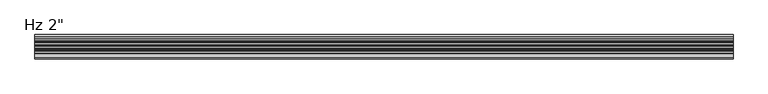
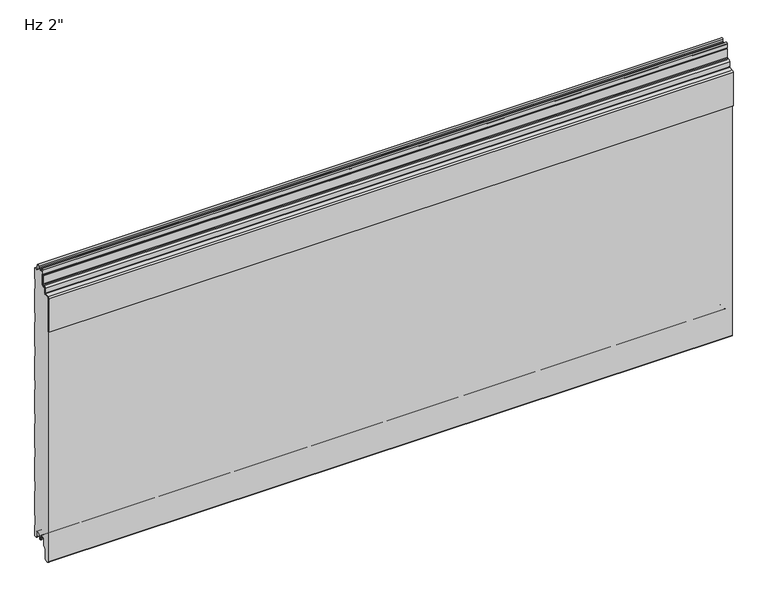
"""IFC4 building model written with IfcOpenShell, lengths in millimetres: plate geometry."""

from ifc_helpers import new_model, si_unit, frame, origin, place, context, project, spatial, polyline, circle_curve, source, transform, mapped, element, save
from ifc_brep_helpers import plane_surface, cylinder_surface, revolved_surface, advanced_brep


def plate_5e277305(model_context):
    return source(origin(), model_context, "Body", "AdvancedBrep", [
        advanced_brep(
        [(730.0, -29.7008679, 583.4464086), (730.0, -29.7008679, 602.1916086), (730.0, -31.2248679, 602.1916086), (730.0, -31.2248679, 583.4464086), (730.0, -32.7488679, 581.9224086), (730.0, -35.8476679, 581.9224086), (730.0, -39.3020679, 578.4680086), (730.0, -39.3020679, 567.2554512), (730.0, -39.9976552, 566.4963509), (730.0, -49.5416507, 565.3015233), (730.0, -52.324, 562.2651218), (730.0, -52.3360323, 486.6978086), (730.0, -50.8, 486.6978086), (730.0, -50.8, 562.2651218), (730.0, -49.4088254, 563.7833225), (730.0, -39.8648299, 564.9781501), (730.0, -37.7780679, 567.2554512), (730.0, -37.7780679, 578.4680086), (730.0, -35.8476679, 580.3984086), (730.0, -32.7488679, 580.3984086), (-730.0, -29.7008679, 583.4464086), (-730.0, -32.7488679, 580.3984086), (-730.0, -35.8476679, 580.3984086), (-730.0, -37.7780679, 578.4680086), (-730.0, -37.7780679, 567.2554512), (-730.0, -39.8648299, 564.9781501), (-730.0, -49.4088254, 563.7833225), (-730.0, -50.8, 562.2651218), (-730.0, -50.8, 486.6978086), (-730.0, -52.3360323, 486.6978086), (-730.0, -52.3360323, 562.2651218), (-730.0, -49.5416507, 565.3015233), (-730.0, -39.9976552, 566.4963509), (-730.0, -39.3020679, 567.2554512), (-730.0, -39.3020679, 578.4680086), (-730.0, -35.8476679, 581.9224086), (-730.0, -32.7488679, 581.9224086), (-730.0, -31.2248679, 583.4464086), (-730.0, -31.2248679, 602.1916086), (-730.0, -29.7008679, 602.1916086)],
        [
            (0, 1),
            (1, 2),
            (2, 3),
            (3, 4, circle_curve(frame((730.0, -32.7488679, 583.4464086), z_axis=(-1.0, 0.0, 0.0), x_axis=(0.0, 1.0, 0.0)), 1.524)),
            (4, 5),
            (5, 6, circle_curve(frame((730.0, -35.8476679, 578.4680086), z_axis=(1.0, 0.0, 0.0), x_axis=(0.0, 1.0, 0.0)), 3.4544)),
            (6, 7),
            (7, 8, circle_curve(frame((730.0, -40.0640679, 567.2554512), z_axis=(-1.0, 0.0, 0.0), x_axis=(0.0, 1.0, 0.0)), 0.762)),
            (8, 9),
            (9, 10, circle_curve(frame((730.0, -49.276, 562.2651218), z_axis=(1.0, 0.0, 0.0), x_axis=(0.0, 1.0, 0.0)), 3.048)),
            (10, 11),
            (11, 12),
            (12, 13),
            (13, 14, circle_curve(frame((730.0, -49.276, 562.2651218), z_axis=(-1.0, 0.0, 0.0), x_axis=(0.0, 1.0, 0.0)), 1.524)),
            (14, 15),
            (15, 16, circle_curve(frame((730.0, -40.0640679, 567.2554512), z_axis=(1.0, 0.0, 0.0), x_axis=(0.0, 1.0, 0.0)), 2.286)),
            (16, 17),
            (17, 18, circle_curve(frame((730.0, -35.8476679, 578.4680086), z_axis=(-1.0, 0.0, 0.0), x_axis=(0.0, 1.0, 0.0)), 1.9304)),
            (18, 19),
            (19, 0, circle_curve(frame((730.0, -32.7488679, 583.4464086), z_axis=(1.0, 0.0, 0.0), x_axis=(0.0, 1.0, 0.0)), 3.048)),
            (20, 21, circle_curve(frame((-730.0, -32.7488679, 583.4464086), z_axis=(-1.0, 0.0, 0.0), x_axis=(0.0, 1.0, 0.0)), 3.048)),
            (21, 22),
            (22, 23, circle_curve(frame((-730.0, -35.8476679, 578.4680086), z_axis=(1.0, 0.0, 0.0), x_axis=(0.0, 1.0, 0.0)), 1.9304)),
            (23, 24),
            (24, 25, circle_curve(frame((-730.0, -40.0640679, 567.2554512), z_axis=(-1.0, 0.0, 0.0), x_axis=(0.0, 1.0, 0.0)), 2.286)),
            (25, 26),
            (26, 27, circle_curve(frame((-730.0, -49.276, 562.2651218), z_axis=(1.0, 0.0, 0.0), x_axis=(0.0, 1.0, 0.0)), 1.524)),
            (27, 28),
            (28, 29),
            (29, 30),
            (30, 31, circle_curve(frame((-730.0, -49.276, 562.2651218), z_axis=(-1.0, 0.0, 0.0), x_axis=(0.0, 1.0, 0.0)), 3.048)),
            (31, 32),
            (32, 33, circle_curve(frame((-730.0, -40.0640679, 567.2554512), z_axis=(1.0, 0.0, 0.0), x_axis=(0.0, 1.0, 0.0)), 0.762)),
            (33, 34),
            (34, 35, circle_curve(frame((-730.0, -35.8476679, 578.4680086), z_axis=(-1.0, 0.0, 0.0), x_axis=(0.0, 1.0, 0.0)), 3.4544)),
            (35, 36),
            (36, 37, circle_curve(frame((-730.0, -32.7488679, 583.4464086), z_axis=(1.0, 0.0, 0.0), x_axis=(0.0, 1.0, 0.0)), 1.524)),
            (37, 38),
            (38, 39),
            (39, 20),
            (2, 38),
            (37, 3),
            (15, 25),
            (24, 16),
            (7, 33),
            (32, 8),
            (5, 35),
            (34, 6),
            (1, 39),
            (36, 4),
            (9, 31),
            (30, 10),
            (13, 27),
            (26, 14),
            (0, 20),
            (12, 28),
            (29, 11),
            (23, 17),
            (18, 22),
            (21, 19),
        ],
        [
            plane_surface(frame((730.0, -50.8, 602.1916086), z_axis=(1.0, 0.0, 0.0), x_axis=(0.0, 0.0, -1.0))),
            plane_surface(frame((-730.0, -50.8, 602.1916086), z_axis=(-1.0, 0.0, 0.0), x_axis=(0.0, 0.0, -1.0))),
            plane_surface(frame((730.0, -31.2248679, 583.4464086), z_axis=(0.0, -1.0, 0.0), x_axis=(-1.0, 0.0, 0.0))),
            cylinder_surface(frame((730.0, -40.0640679, 567.2554512), z_axis=(1.0, 0.0, 0.0), x_axis=(0.0, 1.0, 0.0)), 2.286),
            revolved_surface(polyline([(-730.0, -39.3020679, 567.2554512), (730.0, -39.3020679, 567.2554512)]), (730.0, -40.0640679, 567.2554512), (-1.0, 0.0, 0.0)),
            cylinder_surface(frame((730.0, -35.8476679, 578.4680086), z_axis=(1.0, 0.0, 0.0), x_axis=(0.0, 1.0, 0.0)), 3.4544),
            plane_surface(frame((730.0, -31.2248679, 602.1916086), z_axis=(0.0, 0.0, 1.0), x_axis=(-1.0, 0.0, 0.0))),
            revolved_surface(polyline([(-730.0, -31.2248679, 583.4464086), (730.0, -31.2248679, 583.4464086)]), (730.0, -32.7488679, 583.4464086), (-1.0, 0.0, 0.0)),
            cylinder_surface(frame((730.0, -49.276, 562.2651218), z_axis=(1.0, 0.0, 0.0), x_axis=(0.0, 1.0, 0.0)), 3.048),
            revolved_surface(polyline([(-730.0, -47.752, 562.2651218), (730.0, -47.752, 562.2651218)]), (730.0, -49.276, 562.2651218), (-1.0, 0.0, 0.0)),
            plane_surface(frame((730.0, -29.7008679, 602.1916086), z_axis=(0.0, 1.0, 0.0), x_axis=(-1.0, 0.0, 0.0))),
            plane_surface(frame((730.0, -39.8648299, 564.9781501), z_axis=(0.0, 0.12422187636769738, -0.9922544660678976), x_axis=(-1.0, 0.0, 0.0))),
            plane_surface(frame((730.0, -50.8, 562.2651218), z_axis=(0.0, 1.0, 0.0), x_axis=(-1.0, 0.0, 0.0))),
            plane_surface(frame((730.0, -49.5416507, 565.3015233), z_axis=(0.0, -0.12422187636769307, 0.9922544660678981), x_axis=(-1.0, 0.0, 0.0))),
            plane_surface(frame((730.0, -35.8476679, 581.9224086), z_axis=(0.0, 0.0, 1.0), x_axis=(-1.0, 0.0, 0.0))),
            plane_surface(frame((730.0, -52.3360323, 486.6978086), z_axis=(0.0, -1.0, 0.0), x_axis=(-1.0, 0.0, 0.0))),
            plane_surface(frame((730.0, -50.8, 486.6978086), z_axis=(0.0, 0.0, -1.0), x_axis=(-1.0, 0.0, 0.0))),
            plane_surface(frame((730.0, -37.7780679, 578.4680086), z_axis=(0.0, 1.0, 0.0), x_axis=(-1.0, 0.0, 0.0))),
            plane_surface(frame((730.0, -32.7488679, 580.3984086), z_axis=(0.0, 0.0, -1.0), x_axis=(-1.0, 0.0, 0.0))),
            plane_surface(frame((730.0, -39.3020679, 567.2554512), z_axis=(0.0, -1.0, 0.0), x_axis=(-1.0, 0.0, 0.0))),
            revolved_surface(polyline([(-730.0, -33.9172679, 578.4680086), (730.0, -33.9172679, 578.4680086)]), (730.0, -35.8476679, 578.4680086), (-1.0, 0.0, 0.0)),
            cylinder_surface(frame((730.0, -32.7488679, 583.4464086), z_axis=(1.0, 0.0, 0.0), x_axis=(0.0, 1.0, 0.0)), 3.048),
        ],
        [
            (0, [[1, 2, 3, 4, 5, 6, 7, 8, 9, 10, 11, 12, 13, 14, 15, 16, 17, 18, 19, 20]]),
            (1, [[21, 22, 23, 24, 25, 26, 27, 28, 29, 30, 31, 32, 33, 34, 35, 36, 37, 38, 39, 40]]),
            (2, [[41, -38, 42, -3]]),
            (3, [[43, -25, 44, -16]]),
            (4, [[45, -33, 46, -8]]),
            (5, [[47, -35, 48, -6]]),
            (6, [[49, -39, -41, -2]]),
            (7, [[-42, -37, 50, -4]]),
            (8, [[51, -31, 52, -10]]),
            (9, [[53, -27, 54, -14]]),
            (10, [[55, -40, -49, -1]]),
            (11, [[-54, -26, -43, -15]]),
            (12, [[56, -28, -53, -13]]),
            (13, [[-46, -32, -51, -9]]),
            (14, [[-50, -36, -47, -5]]),
            (15, [[-52, -30, 57, -11]]),
            (16, [[-57, -29, -56, -12]]),
            (17, [[-44, -24, 58, -17]]),
            (18, [[59, -22, 60, -19]]),
            (19, [[-48, -34, -45, -7]]),
            (20, [[-58, -23, -59, -18]]),
            (21, [[-60, -21, -55, -20]]),
        ],
    ),
        advanced_brep(
        [(-730.0, -22.470875, 1.0316999), (-730.0, -21.3014003, 2.2328239), (-730.0, -21.3014003, 5.9912173), (-730.0, -22.6998791, 5.9912173), (-730.0, -22.6998791, 8.6903283), (-730.0, -26.0498744, 12.0403236), (-730.0, -30.4498656, 12.0403236), (-730.0, -33.7998609, 8.6903283), (-730.0, -33.7998609, -3.1205608), (-730.0, -34.2977778, -4.3226385), (-730.0, -39.7998489, -9.8247096), (-730.0, -39.7998489, -31.9198392), (-730.0, -42.0184509, -34.5765709), (-730.0, -47.0002718, -35.0125699), (-730.0, -49.7945967, -32.4521176), (-730.0, -49.8, 561.115622), (-730.0, -48.0149259, 563.0669057), (-730.0, -39.5539491, 563.821161), (-730.0, -36.7906462, 566.9653654), (-730.0, -36.7906462, 577.0583308), (-730.0, -35.8392375, 578.0097394), (-730.0, -32.6955822, 578.0097394), (-730.0, -28.6961293, 582.0091924), (-730.0, -28.6961293, 603.1895515), (-730.0, -30.676977, 604.3334028), (-730.0, -30.3217167, 613.306811), (-730.0, -26.1211391, 613.3037148), (-730.0, -25.8767242, 609.2977997), (-730.0, -24.0819116, 607.5686884), (-730.0, -21.297365, 607.5686884), (-730.0, -21.297365, 608.5686884), (-730.0, -22.884865, 608.5686884), (-730.0, -21.8535534, 609.6), (-730.0, -18.6247968, 609.6), (-730.0, -17.5934852, 608.5686884), (-730.0, -19.0078731, 608.5686884), (-730.0, -19.0078731, 607.5686884), (-730.0, -16.6806905, 607.5686884), (-730.0, -14.9319872, 609.2513685), (-730.0, -14.7123265, 613.3921924), (-730.0, -10.4109885, 613.3931719), (-730.0, -10.0037808, 604.9016499), (-730.0, -6.008945, 601.0787013), (-730.0, -1.0063443, 601.0787013), (-730.0, -1.0063443, 576.5789439), (-730.0, -2.206575, 575.1933109), (-730.0, -2.206575, 555.8181446), (-730.0, -1.0063443, 554.4325117), (-730.0, -1.0063443, 500.3790963), (-730.0, -2.206575, 498.9934633), (-730.0, -2.206575, 479.618297), (-730.0, -1.0063443, 478.2326641), (-730.0, -1.0063443, 424.1792487), (-730.0, -2.206575, 422.7936157), (-730.0, -2.206575, 403.4184494), (-730.0, -1.0063443, 402.0328165), (-730.0, -1.0063443, 347.9794011), (-730.0, -2.206575, 346.5937681), (-730.0, -2.206575, 327.2186018), (-730.0, -1.0063443, 325.8329689), (-730.0, -1.0063443, 271.7795535), (-730.0, -2.206575, 270.3939205), (-730.0, -2.206575, 251.0187542), (-730.0, -1.0063443, 249.6331213), (-730.0, -1.0063443, 195.5797059), (-730.0, -2.206575, 194.1940729), (-730.0, -2.206575, 174.8189066), (-730.0, -1.0063443, 173.4332737), (-730.0, -1.0063443, 119.3798583), (-730.0, -2.206575, 117.9942253), (-730.0, -2.206575, 98.619059), (-730.0, -1.0063443, 97.2334261), (-730.0, -1.0063443, 43.1800107), (-730.0, -2.206575, 41.7943777), (-730.0, -2.206575, 22.4192114), (-730.0, -1.0063443, 21.0335785), (-730.0, -1.0063443, -3.4662506), (-730.0, -5.2378832, -3.4662506), (-730.0, -7.0078774, -1.6962564), (-730.0, -7.0078774, 8.7237222), (-730.0, -10.3078733, 12.023718), (-730.0, -14.7078645, 12.023718), (-730.0, -18.0078602, 8.7237223), (-730.0, -18.0078602, 6.0315125), (-730.0, -19.0078547, 6.0315125), (-730.0, -19.0078547, 2.0313089), (-730.0, -18.0078635, 1.0313117), (-730.0, -19.0391752, 0.0), (-730.0, -21.4391751, 0.0), (730.0, -22.470875, 1.0316999), (730.0, -21.4391751, 0.0), (730.0, -19.0391752, 0.0), (730.0, -18.0078635, 1.0313117), (730.0, -19.0078547, 2.0313089), (730.0, -19.0078547, 6.0315125), (730.0, -18.0078602, 6.0315125), (730.0, -18.0078602, 8.7237223), (730.0, -14.7078645, 12.023718), (730.0, -10.3078733, 12.023718), (730.0, -7.0078774, 8.7237222), (730.0, -7.0078774, -1.6962564), (730.0, -5.2378832, -3.4662506), (730.0, -1.0063443, -3.4662506), (730.0, -1.0063443, 21.0335785), (730.0, -2.206575, 22.4192114), (730.0, -2.206575, 41.7943777), (730.0, -1.0063443, 43.1800107), (730.0, -1.0063443, 97.2334261), (730.0, -2.206575, 98.619059), (730.0, -2.206575, 117.9942253), (730.0, -1.0063443, 119.3798583), (730.0, -1.0063443, 173.4332737), (730.0, -2.206575, 174.8189066), (730.0, -2.206575, 194.1940729), (730.0, -1.0063443, 195.5797059), (730.0, -1.0063443, 249.6331213), (730.0, -2.206575, 251.0187542), (730.0, -2.206575, 270.3939205), (730.0, -1.0063443, 271.7795535), (730.0, -1.0063443, 325.8329689), (730.0, -2.206575, 327.2186018), (730.0, -2.206575, 346.5937681), (730.0, -1.0063443, 347.9794011), (730.0, -1.0063443, 402.0328165), (730.0, -2.206575, 403.4184494), (730.0, -2.206575, 422.7936157), (730.0, -1.0063443, 424.1792487), (730.0, -1.0063443, 478.2326641), (730.0, -2.206575, 479.618297), (730.0, -2.206575, 498.9934633), (730.0, -1.0063443, 500.3790963), (730.0, -1.0063443, 554.4325117), (730.0, -2.206575, 555.8181446), (730.0, -2.206575, 575.1933109), (730.0, -1.0063443, 576.5789439), (730.0, -1.0063443, 601.0787013), (730.0, -6.008945, 601.0787013), (730.0, -10.0037808, 604.9016499), (730.0, -10.4109885, 613.3931719), (730.0, -14.7123265, 613.3921924), (730.0, -14.9319872, 609.2513685), (730.0, -16.6806905, 607.5686884), (730.0, -19.0078731, 607.5686884), (730.0, -19.0078731, 608.5686884), (730.0, -17.5934852, 608.5686884), (730.0, -18.6247968, 609.6), (730.0, -21.8535534, 609.6), (730.0, -22.884865, 608.5686884), (730.0, -21.297365, 608.5686884), (730.0, -21.297365, 607.5686884), (730.0, -24.0819116, 607.5686884), (730.0, -25.8767242, 609.2977997), (730.0, -26.1211391, 613.3037148), (730.0, -30.3217167, 613.306811), (730.0, -30.676977, 604.3334028), (730.0, -28.6961293, 603.1895515), (730.0, -28.6961293, 582.0091924), (730.0, -32.6955822, 578.0097394), (730.0, -35.8392375, 578.0097394), (730.0, -36.7906462, 577.0583308), (730.0, -36.7906462, 566.9653654), (730.0, -39.5539491, 563.821161), (730.0, -48.0149259, 563.0669057), (730.0, -49.8, 561.115622), (730.0, -49.8, -32.4521176), (730.0, -47.0002718, -35.0125699), (730.0, -42.0184509, -34.5765709), (730.0, -39.7998489, -31.9198392), (730.0, -39.7998489, -9.8247096), (730.0, -34.2977778, -4.3226385), (730.0, -33.7998609, -3.1205608), (730.0, -33.7998609, 8.6903283), (730.0, -30.4498656, 12.0403236), (730.0, -26.0498744, 12.0403236), (730.0, -22.6998791, 8.6903283), (730.0, -22.6998791, 5.9912173), (730.0, -21.3014003, 5.9912173), (730.0, -21.3014003, 2.2328239)],
        [
            (0, 1, circle_curve(frame((-730.0, -22.5013969, 2.2313092), z_axis=(1.0, 0.0, 0.0), x_axis=(0.0, 0.0, -1.0)), 1.1999976)),
            (1, 2),
            (2, 3),
            (3, 4),
            (4, 5, circle_curve(frame((-730.0, -26.0498744, 8.6903283), z_axis=(1.0, 0.0, 0.0), x_axis=(0.0, 0.0, -1.0)), 3.3499953)),
            (5, 6),
            (6, 7, circle_curve(frame((-730.0, -30.4498656, 8.6903283), z_axis=(1.0, 0.0, 0.0), x_axis=(0.0, 0.0, -1.0)), 3.3499953)),
            (7, 8),
            (8, 9, circle_curve(frame((-730.0, -35.4998555, -3.1205608), z_axis=(-1.0, 0.0, 0.0), x_axis=(0.0, 0.0, -1.0)), 1.6999946)),
            (9, 10),
            (10, 11),
            (11, 12, circle_curve(frame((-730.0, -42.4998415, -31.9198392), z_axis=(-1.0, 0.0, 0.0), x_axis=(0.0, 0.0, -1.0)), 2.6999926)),
            (12, 13),
            (13, 14, circle_curve(frame((-730.0, -47.2243575, -32.4521176), z_axis=(-1.0, 0.0, 0.0), x_axis=(0.0, 0.0, -1.0)), 2.5702393)),
            (14, 15),
            (15, 16, circle_curve(frame((-730.0, -47.8409784, 561.115622), z_axis=(-1.0, 0.0, 0.0), x_axis=(0.0, 0.0, -1.0)), 1.9590216)),
            (16, 17),
            (17, 18, circle_curve(frame((-730.0, -39.8180321, 566.8396267), z_axis=(1.0, 0.0, 0.0), x_axis=(0.0, 0.0, -1.0)), 3.0299959)),
            (18, 19),
            (19, 20, circle_curve(frame((-730.0, -35.8392375, 577.0583308), z_axis=(-1.0, 0.0, 0.0), x_axis=(0.0, 0.0, -1.0)), 0.9514087)),
            (20, 21),
            (21, 22, circle_curve(frame((-730.0, -32.6955822, 582.0091924), z_axis=(1.0, 0.0, 0.0), x_axis=(0.0, 0.0, -1.0)), 3.9994529)),
            (22, 23),
            (23, 24),
            (24, 25),
            (25, 26, circle_curve(frame((-730.0, -28.2214881, 613.2236622), z_axis=(-1.0, 0.0, 0.0), x_axis=(0.0, 0.0, -1.0)), 2.1018739)),
            (26, 27),
            (27, 28, circle_curve(frame((-730.0, -24.0383506, 609.4099653), z_axis=(1.0, 0.0, 0.0), x_axis=(0.0, 0.0, -1.0)), 1.8417922)),
            (28, 29),
            (29, 30),
            (30, 31),
            (31, 32),
            (32, 33),
            (33, 34),
            (34, 35),
            (35, 36),
            (36, 37),
            (37, 38, circle_curve(frame((-730.0, -16.6806905, 609.3186869), z_axis=(1.0, 0.0, 0.0), x_axis=(0.0, 0.0, -1.0)), 1.7499985)),
            (38, 39),
            (39, 40, circle_curve(frame((-730.0, -12.5616314, 613.2781032), z_axis=(-1.0, 0.0, 0.0), x_axis=(0.0, 0.0, -1.0)), 2.153719)),
            (40, 41),
            (41, 42, circle_curve(frame((-730.0, -5.9930781, 605.0939817), z_axis=(1.0, 0.0, 0.0), x_axis=(0.0, 0.0, -1.0)), 4.0153117)),
            (42, 43),
            (43, 44),
            (44, 45),
            (45, 46),
            (46, 47),
            (47, 48),
            (48, 49),
            (49, 50),
            (50, 51),
            (51, 52),
            (52, 53),
            (53, 54),
            (54, 55),
            (55, 56),
            (56, 57),
            (57, 58),
            (58, 59),
            (59, 60),
            (60, 61),
            (61, 62),
            (62, 63),
            (63, 64),
            (64, 65),
            (65, 66),
            (66, 67),
            (67, 68),
            (68, 69),
            (69, 70),
            (70, 71),
            (71, 72),
            (72, 73),
            (73, 74),
            (74, 75),
            (75, 76),
            (76, 77),
            (77, 78, circle_curve(frame((-730.0, -5.2378832, -1.6962564), z_axis=(-1.0, 0.0, 0.0), x_axis=(0.0, 0.0, -1.0)), 1.7699942)),
            (78, 79),
            (79, 80, circle_curve(frame((-730.0, -10.3078733, 8.7237222), z_axis=(1.0, 0.0, 0.0), x_axis=(0.0, 0.0, -1.0)), 3.2999959)),
            (80, 81),
            (81, 82, circle_curve(frame((-730.0, -14.7078645, 8.7237223), z_axis=(1.0, 0.0, 0.0), x_axis=(0.0, 0.0, -1.0)), 3.2999957)),
            (82, 83),
            (83, 84),
            (84, 85),
            (85, 86, circle_curve(frame((-730.0, -18.0078576, 2.0313089), z_axis=(1.0, 0.0, 0.0), x_axis=(0.0, 0.0, -1.0)), 0.9999972)),
            (86, 87),
            (87, 88),
            (88, 0),
            (89, 90),
            (90, 91),
            (91, 92),
            (92, 93, circle_curve(frame((730.0, -18.0078576, 2.0313089), z_axis=(-1.0, 0.0, 0.0), x_axis=(0.0, 0.0, -1.0)), 0.9999972)),
            (93, 94),
            (94, 95),
            (95, 96),
            (96, 97, circle_curve(frame((730.0, -14.7078645, 8.7237223), z_axis=(-1.0, 0.0, 0.0), x_axis=(0.0, 0.0, -1.0)), 3.2999957)),
            (97, 98),
            (98, 99, circle_curve(frame((730.0, -10.3078733, 8.7237222), z_axis=(-1.0, 0.0, 0.0), x_axis=(0.0, 0.0, -1.0)), 3.2999959)),
            (99, 100),
            (100, 101, circle_curve(frame((730.0, -5.2378832, -1.6962564), z_axis=(1.0, 0.0, 0.0), x_axis=(0.0, 0.0, -1.0)), 1.7699942)),
            (101, 102),
            (102, 103),
            (103, 104),
            (104, 105),
            (105, 106),
            (106, 107),
            (107, 108),
            (108, 109),
            (109, 110),
            (110, 111),
            (111, 112),
            (112, 113),
            (113, 114),
            (114, 115),
            (115, 116),
            (116, 117),
            (117, 118),
            (118, 119),
            (119, 120),
            (120, 121),
            (121, 122),
            (122, 123),
            (123, 124),
            (124, 125),
            (125, 126),
            (126, 127),
            (127, 128),
            (128, 129),
            (129, 130),
            (130, 131),
            (131, 132),
            (132, 133),
            (133, 134),
            (134, 135),
            (135, 136),
            (136, 137, circle_curve(frame((730.0, -5.9930781, 605.0939817), z_axis=(-1.0, 0.0, 0.0), x_axis=(0.0, 0.0, -1.0)), 4.0153117)),
            (137, 138),
            (138, 139, circle_curve(frame((730.0, -12.5616314, 613.2781032), z_axis=(1.0, 0.0, 0.0), x_axis=(0.0, 0.0, -1.0)), 2.153719)),
            (139, 140),
            (140, 141, circle_curve(frame((730.0, -16.6806905, 609.3186869), z_axis=(-1.0, 0.0, 0.0), x_axis=(0.0, 0.0, -1.0)), 1.7499985)),
            (141, 142),
            (142, 143),
            (143, 144),
            (144, 145),
            (145, 146),
            (146, 147),
            (147, 148),
            (148, 149),
            (149, 150),
            (150, 151, circle_curve(frame((730.0, -24.0383506, 609.4099653), z_axis=(-1.0, 0.0, 0.0), x_axis=(0.0, 0.0, -1.0)), 1.8417922)),
            (151, 152),
            (152, 153, circle_curve(frame((730.0, -28.2214881, 613.2236622), z_axis=(1.0, 0.0, 0.0), x_axis=(0.0, 0.0, -1.0)), 2.1018739)),
            (153, 154),
            (154, 155),
            (155, 156),
            (156, 157, circle_curve(frame((730.0, -32.6955822, 582.0091924), z_axis=(-1.0, 0.0, 0.0), x_axis=(0.0, 0.0, -1.0)), 3.9994529)),
            (157, 158),
            (158, 159, circle_curve(frame((730.0, -35.8392375, 577.0583308), z_axis=(1.0, 0.0, 0.0), x_axis=(0.0, 0.0, -1.0)), 0.9514087)),
            (159, 160),
            (160, 161, circle_curve(frame((730.0, -39.8180321, 566.8396267), z_axis=(-1.0, 0.0, 0.0), x_axis=(0.0, 0.0, -1.0)), 3.0299959)),
            (161, 162),
            (162, 163, circle_curve(frame((730.0, -47.8409784, 561.115622), z_axis=(1.0, 0.0, 0.0), x_axis=(0.0, 0.0, -1.0)), 1.9590216)),
            (163, 164),
            (164, 165, circle_curve(frame((730.0, -47.2243575, -32.4521176), z_axis=(1.0, 0.0, 0.0), x_axis=(0.0, 0.0, -1.0)), 2.5702393)),
            (165, 166),
            (166, 167, circle_curve(frame((730.0, -42.4998415, -31.9198392), z_axis=(1.0, 0.0, 0.0), x_axis=(0.0, 0.0, -1.0)), 2.6999926)),
            (167, 168),
            (168, 169),
            (169, 170, circle_curve(frame((730.0, -35.4998555, -3.1205608), z_axis=(1.0, 0.0, 0.0), x_axis=(0.0, 0.0, -1.0)), 1.6999946)),
            (170, 171),
            (171, 172, circle_curve(frame((730.0, -30.4498656, 8.6903283), z_axis=(-1.0, 0.0, 0.0), x_axis=(0.0, 0.0, -1.0)), 3.3499953)),
            (172, 173),
            (173, 174, circle_curve(frame((730.0, -26.0498744, 8.6903283), z_axis=(-1.0, 0.0, 0.0), x_axis=(0.0, 0.0, -1.0)), 3.3499953)),
            (174, 175),
            (175, 176),
            (176, 177),
            (177, 89, circle_curve(frame((730.0, -22.5013969, 2.2313092), z_axis=(-1.0, 0.0, 0.0), x_axis=(0.0, 0.0, -1.0)), 1.1999976)),
            (41, 137),
            (136, 42),
            (135, 43),
            (87, 91),
            (90, 88),
            (32, 146),
            (145, 33),
            (134, 44),
            (133, 45),
            (132, 46),
            (47, 131),
            (130, 48),
            (51, 127),
            (126, 52),
            (50, 128),
            (49, 129),
            (125, 53),
            (124, 54),
            (55, 123),
            (122, 56),
            (121, 57),
            (120, 58),
            (59, 119),
            (118, 60),
            (61, 117),
            (116, 62),
            (115, 63),
            (114, 64),
            (67, 111),
            (110, 68),
            (66, 112),
            (65, 113),
            (69, 109),
            (108, 70),
            (71, 107),
            (106, 72),
            (75, 103),
            (102, 76),
            (73, 105),
            (104, 74),
            (40, 138),
            (0, 89),
            (177, 1),
            (39, 139),
            (38, 140),
            (36, 142),
            (141, 37),
            (34, 144),
            (143, 35),
            (79, 99),
            (98, 80),
            (101, 77),
            (78, 100),
            (81, 97),
            (96, 82),
            (83, 95),
            (94, 84),
            (14, 164),
            (163, 15),
            (86, 92),
            (85, 93),
            (13, 165),
            (16, 162),
            (161, 17),
            (160, 18),
            (19, 159),
            (158, 20),
            (157, 21),
            (156, 22),
            (23, 155),
            (154, 24),
            (153, 25),
            (152, 26),
            (29, 149),
            (148, 30),
            (28, 150),
            (27, 151),
            (31, 147),
            (12, 166),
            (10, 168),
            (167, 11),
            (9, 169),
            (7, 171),
            (170, 8),
            (6, 172),
            (4, 174),
            (173, 5),
            (3, 175),
            (2, 176),
        ],
        [
            plane_surface(frame((-730.0, -49.8, 304.8), z_axis=(-1.0, 0.0, 0.0), x_axis=(0.0, -1.0, 0.0))),
            plane_surface(frame((730.0, -49.8, 304.8), z_axis=(1.0, 0.0, 0.0), x_axis=(0.0, -1.0, 0.0))),
            revolved_surface(polyline([(730.0, -5.9930781, 601.07867), (-730.0, -5.9930781, 601.07867)]), (-730.0, -5.9930781, 605.0939817), (1.0, 0.0, 0.0)),
            plane_surface(frame((-730.0, -1.0063443, 601.0787013), z_axis=(0.0, 0.0, 1.0), x_axis=(1.0, 0.0, 0.0))),
            plane_surface(frame((-730.0, -21.4391751, 0.0), z_axis=(0.0, 0.0, -1.0), x_axis=(1.0, 0.0, 0.0))),
            plane_surface(frame((-730.0, -18.6247968, 609.6), z_axis=(0.0, 0.0, 1.0), x_axis=(1.0, 0.0, 0.0))),
            plane_surface(frame((-730.0, -1.0063443, 576.5789439), z_axis=(0.0, 1.0, 0.0), x_axis=(1.0, 0.0, 0.0))),
            plane_surface(frame((-730.0, -2.206575, 575.1933109), z_axis=(0.0, 0.7558648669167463, -0.6547276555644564), x_axis=(1.0, 0.0, 0.0))),
            plane_surface(frame((-730.0, -2.206575, 555.8181446), z_axis=(0.0, 1.0, 0.0), x_axis=(1.0, 0.0, 0.0))),
            plane_surface(frame((-730.0, -1.0063443, 500.3790963), z_axis=(0.0, 1.0, 0.0), x_axis=(1.0, 0.0, 0.0))),
            plane_surface(frame((-730.0, -1.0063443, 554.4325117), z_axis=(0.0, 0.7558648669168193, 0.6547276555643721), x_axis=(1.0, 0.0, 0.0))),
            plane_surface(frame((-730.0, -1.0063443, 424.1792487), z_axis=(0.0, 1.0, 0.0), x_axis=(1.0, 0.0, 0.0))),
            plane_surface(frame((-730.0, -1.0063443, 478.2326641), z_axis=(0.0, 0.7558648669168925, 0.6547276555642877), x_axis=(1.0, 0.0, 0.0))),
            plane_surface(frame((-730.0, -2.206575, 479.618297), z_axis=(0.0, 1.0, 0.0), x_axis=(1.0, 0.0, 0.0))),
            plane_surface(frame((-730.0, -2.206575, 498.9934633), z_axis=(0.0, 0.7558648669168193, -0.6547276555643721), x_axis=(1.0, 0.0, 0.0))),
            plane_surface(frame((-730.0, -2.206575, 422.7936157), z_axis=(0.0, 0.7558648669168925, -0.6547276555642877), x_axis=(1.0, 0.0, 0.0))),
            plane_surface(frame((-730.0, -2.206575, 403.4184494), z_axis=(0.0, 1.0, 0.0), x_axis=(1.0, 0.0, 0.0))),
            plane_surface(frame((-730.0, -1.0063443, 347.9794011), z_axis=(0.0, 1.0, 0.0), x_axis=(1.0, 0.0, 0.0))),
            plane_surface(frame((-730.0, -1.0063443, 402.0328165), z_axis=(0.0, 0.7558648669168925, 0.6547276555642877), x_axis=(1.0, 0.0, 0.0))),
            plane_surface(frame((-730.0, -2.206575, 346.5937681), z_axis=(0.0, 0.7558648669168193, -0.6547276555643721), x_axis=(1.0, 0.0, 0.0))),
            plane_surface(frame((-730.0, -2.206575, 327.2186018), z_axis=(0.0, 1.0, 0.0), x_axis=(1.0, 0.0, 0.0))),
            plane_surface(frame((-730.0, -1.0063443, 271.7795535), z_axis=(0.0, 1.0, 0.0), x_axis=(1.0, 0.0, 0.0))),
            plane_surface(frame((-730.0, -1.0063443, 325.8329689), z_axis=(0.0, 0.755864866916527, 0.6547276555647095), x_axis=(1.0, 0.0, 0.0))),
            plane_surface(frame((-730.0, -2.206575, 251.0187542), z_axis=(0.0, 1.0, 0.0), x_axis=(1.0, 0.0, 0.0))),
            plane_surface(frame((-730.0, -1.0063443, 249.6331213), z_axis=(0.0, 0.755864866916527, 0.6547276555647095), x_axis=(1.0, 0.0, 0.0))),
            plane_surface(frame((-730.0, -2.206575, 270.3939205), z_axis=(0.0, 0.755864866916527, -0.6547276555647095), x_axis=(1.0, 0.0, 0.0))),
            plane_surface(frame((-730.0, -1.0063443, 195.5797059), z_axis=(0.0, 1.0, 0.0), x_axis=(1.0, 0.0, 0.0))),
            plane_surface(frame((-730.0, -1.0063443, 119.3798583), z_axis=(0.0, 1.0, 0.0), x_axis=(1.0, 0.0, 0.0))),
            plane_surface(frame((-730.0, -1.0063443, 173.4332737), z_axis=(0.0, 0.7558648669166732, 0.6547276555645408), x_axis=(1.0, 0.0, 0.0))),
            plane_surface(frame((-730.0, -2.206575, 174.8189066), z_axis=(0.0, 1.0, 0.0), x_axis=(1.0, 0.0, 0.0))),
            plane_surface(frame((-730.0, -2.206575, 194.1940729), z_axis=(0.0, 0.755864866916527, -0.6547276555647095), x_axis=(1.0, 0.0, 0.0))),
            plane_surface(frame((-730.0, -2.206575, 98.619059), z_axis=(0.0, 1.0, 0.0), x_axis=(1.0, 0.0, 0.0))),
            plane_surface(frame((-730.0, -2.206575, 117.9942253), z_axis=(0.0, 0.7558648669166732, -0.6547276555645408), x_axis=(1.0, 0.0, 0.0))),
            plane_surface(frame((-730.0, -1.0063443, 43.1800107), z_axis=(0.0, 1.0, 0.0), x_axis=(1.0, 0.0, 0.0))),
            plane_surface(frame((-730.0, -1.0063443, 97.2334261), z_axis=(0.0, 0.7558648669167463, 0.6547276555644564), x_axis=(1.0, 0.0, 0.0))),
            plane_surface(frame((-730.0, -1.0063443, -3.4662506), z_axis=(0.0, 1.0, 0.0), x_axis=(1.0, 0.0, 0.0))),
            plane_surface(frame((-730.0, -2.206575, 22.4192114), z_axis=(0.0, 1.0, 0.0), x_axis=(1.0, 0.0, 0.0))),
            plane_surface(frame((-730.0, -2.206575, 41.7943777), z_axis=(0.0, 0.7558648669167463, -0.6547276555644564), x_axis=(1.0, 0.0, 0.0))),
            plane_surface(frame((-730.0, -1.0063443, 21.0335785), z_axis=(0.0, 0.7558648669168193, 0.6547276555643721), x_axis=(1.0, 0.0, 0.0))),
            plane_surface(frame((-730.0, -10.0037808, 604.9016499), z_axis=(0.0, 0.9988521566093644, 0.04789957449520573), x_axis=(1.0, 0.0, 0.0))),
            revolved_surface(polyline([(730.0, -22.5013969, 1.0313116), (-730.0, -22.5013969, 1.0313116)]), (-730.0, -22.5013969, 2.2313092), (1.0, 0.0, 0.0)),
            plane_surface(frame((-730.0, -22.470875, 1.0316999), z_axis=(0.0, -0.7071067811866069, -0.7071067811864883), x_axis=(1.0, 0.0, 0.0))),
            cylinder_surface(frame((-730.0, -12.5616314, 613.2781032), z_axis=(-1.0, 0.0, 0.0), x_axis=(0.0, 0.0, -1.0)), 2.153719),
            plane_surface(frame((-730.0, -14.7123265, 613.3921924), z_axis=(0.0, -0.9985959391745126, 0.05297310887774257), x_axis=(1.0, 0.0, 0.0))),
            plane_surface(frame((-730.0, -16.6806905, 607.5686884), z_axis=(0.0, 0.0, 1.0), x_axis=(1.0, 0.0, 0.0))),
            revolved_surface(polyline([(730.0, -16.6806905, 607.5686884), (-730.0, -16.6806905, 607.5686884)]), (-730.0, -16.6806905, 609.3186869), (1.0, 0.0, 0.0)),
            plane_surface(frame((-730.0, -19.0078731, 608.5686884), z_axis=(0.0, 0.0, -1.0), x_axis=(1.0, 0.0, 0.0))),
            plane_surface(frame((-730.0, -19.0078731, 607.5686884), z_axis=(0.0, 1.0, 0.0), x_axis=(1.0, 0.0, 0.0))),
            plane_surface(frame((-730.0, -17.5934852, 608.5686884), z_axis=(0.0, 0.7071067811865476, 0.7071067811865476), x_axis=(1.0, 0.0, 0.0))),
            revolved_surface(polyline([(730.0, -10.3078733, 5.423726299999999), (-730.0, -10.3078733, 5.423726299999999)]), (-730.0, -10.3078733, 8.7237222), (1.0, 0.0, 0.0)),
            plane_surface(frame((-730.0, -5.2378832, -3.4662506), z_axis=(0.0, 0.0, -1.0), x_axis=(1.0, 0.0, 0.0))),
            plane_surface(frame((-730.0, -7.0078774, 8.7237222), z_axis=(0.0, -1.0, 0.0), x_axis=(1.0, 0.0, 0.0))),
            cylinder_surface(frame((-730.0, -5.2378832, -1.6962564), z_axis=(-1.0, 0.0, 0.0), x_axis=(0.0, 0.0, -1.0)), 1.7699942),
            revolved_surface(polyline([(730.0, -14.7078645, 5.4237266), (-730.0, -14.7078645, 5.4237266)]), (-730.0, -14.7078645, 8.7237223), (1.0, 0.0, 0.0)),
            plane_surface(frame((-730.0, -14.7078645, 12.023718), z_axis=(0.0, 0.0, -1.0), x_axis=(1.0, 0.0, 0.0))),
            plane_surface(frame((-730.0, -19.0078547, 6.0315125), z_axis=(0.0, 0.0, -1.0), x_axis=(1.0, 0.0, 0.0))),
            plane_surface(frame((-730.0, -18.0078602, 6.0315125), z_axis=(0.0, 1.0, 0.0), x_axis=(1.0, 0.0, 0.0))),
            plane_surface(frame((-730.0, -49.8, 561.115622), z_axis=(0.0, -1.0, 0.0), x_axis=(1.0, 0.0, 0.0))),
            plane_surface(frame((-730.0, -19.0391752, 0.0), z_axis=(0.0, 0.7071067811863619, -0.7071067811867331), x_axis=(1.0, 0.0, 0.0))),
            revolved_surface(polyline([(730.0, -18.0078576, 1.0313116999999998), (-730.0, -18.0078576, 1.0313116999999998)]), (-730.0, -18.0078576, 2.0313089), (1.0, 0.0, 0.0)),
            plane_surface(frame((-730.0, -19.0078547, 2.0313089), z_axis=(0.0, 1.0, 0.0), x_axis=(1.0, 0.0, 0.0))),
            cylinder_surface(frame((-730.0, -47.2243575, -32.4521176), z_axis=(-1.0, 0.0, 0.0), x_axis=(0.0, 0.0, -1.0)), 2.5702393),
            plane_surface(frame((-730.0, -39.5539491, 563.821161), z_axis=(0.0, -0.08879306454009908, 0.9960500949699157), x_axis=(1.0, 0.0, 0.0))),
            revolved_surface(polyline([(730.0, -39.8180321, 563.8096308), (-730.0, -39.8180321, 563.8096308)]), (-730.0, -39.8180321, 566.8396267), (1.0, 0.0, 0.0)),
            cylinder_surface(frame((-730.0, -47.8409784, 561.115622), z_axis=(-1.0, 0.0, 0.0), x_axis=(0.0, 0.0, -1.0)), 1.9590216),
            cylinder_surface(frame((-730.0, -35.8392375, 577.0583308), z_axis=(-1.0, 0.0, 0.0), x_axis=(0.0, 0.0, -1.0)), 0.9514087),
            plane_surface(frame((-730.0, -36.7906462, 577.0583308), z_axis=(0.0, -1.0, 0.0), x_axis=(1.0, 0.0, 0.0))),
            plane_surface(frame((-730.0, -32.6955822, 578.0097394), z_axis=(0.0, 0.0, 1.0), x_axis=(1.0, 0.0, 0.0))),
            revolved_surface(polyline([(730.0, -32.6955822, 578.0097394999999), (-730.0, -32.6955822, 578.0097394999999)]), (-730.0, -32.6955822, 582.0091924), (1.0, 0.0, 0.0)),
            plane_surface(frame((-730.0, -30.676977, 604.3334028), z_axis=(0.0, -0.5000682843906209, -0.8659859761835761), x_axis=(1.0, 0.0, 0.0))),
            plane_surface(frame((-730.0, -28.6961293, 603.1895515), z_axis=(0.0, -1.0, 0.0), x_axis=(1.0, 0.0, 0.0))),
            plane_surface(frame((-730.0, -30.3217167, 613.306811), z_axis=(0.0, -0.999217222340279, 0.03955935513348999), x_axis=(1.0, 0.0, 0.0))),
            cylinder_surface(frame((-730.0, -28.2214881, 613.2236622), z_axis=(-1.0, 0.0, 0.0), x_axis=(0.0, 0.0, -1.0)), 2.1018739),
            plane_surface(frame((-730.0, -21.297365, 608.5686884), z_axis=(0.0, -1.0, 0.0), x_axis=(1.0, 0.0, 0.0))),
            plane_surface(frame((-730.0, -21.297365, 607.5686884), z_axis=(0.0, 0.0, 1.0), x_axis=(1.0, 0.0, 0.0))),
            revolved_surface(polyline([(730.0, -24.0383506, 607.5681731), (-730.0, -24.0383506, 607.5681731)]), (-730.0, -24.0383506, 609.4099653), (1.0, 0.0, 0.0)),
            plane_surface(frame((-730.0, -25.8767242, 609.2977997), z_axis=(0.0, 0.9981438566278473, 0.060900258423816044), x_axis=(1.0, 0.0, 0.0))),
            plane_surface(frame((-730.0, -21.8535534, 609.6), z_axis=(0.0, -0.7071067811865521, 0.707106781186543), x_axis=(1.0, 0.0, 0.0))),
            plane_surface(frame((-730.0, -22.884865, 608.5686884), z_axis=(0.0, 0.0, -1.0), x_axis=(1.0, 0.0, 0.0))),
            plane_surface(frame((-730.0, -47.0002718, -35.0125699), z_axis=(0.0, 0.08718474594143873, -0.9961921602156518), x_axis=(1.0, 0.0, 0.0))),
            plane_surface(frame((-730.0, -39.7998489, -31.9198392), z_axis=(0.0, 1.0, 0.0), x_axis=(1.0, 0.0, 0.0))),
            cylinder_surface(frame((-730.0, -42.4998415, -31.9198392), z_axis=(-1.0, 0.0, 0.0), x_axis=(0.0, 0.0, -1.0)), 2.6999926),
            plane_surface(frame((-730.0, -39.7998489, -9.8247096), z_axis=(0.0, 0.7071067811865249, -0.7071067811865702), x_axis=(1.0, 0.0, 0.0))),
            plane_surface(frame((-730.0, -33.7998609, -3.1205608), z_axis=(0.0, 1.0, 0.0), x_axis=(1.0, 0.0, 0.0))),
            revolved_surface(polyline([(730.0, -30.4498656, 5.340332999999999), (-730.0, -30.4498656, 5.340332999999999)]), (-730.0, -30.4498656, 8.6903283), (1.0, 0.0, 0.0)),
            cylinder_surface(frame((-730.0, -35.4998555, -3.1205608), z_axis=(-1.0, 0.0, 0.0), x_axis=(0.0, 0.0, -1.0)), 1.6999946),
            revolved_surface(polyline([(730.0, -26.0498744, 5.340332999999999), (-730.0, -26.0498744, 5.340332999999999)]), (-730.0, -26.0498744, 8.6903283), (1.0, 0.0, 0.0)),
            plane_surface(frame((-730.0, -30.4498656, 12.0403236), z_axis=(0.0, 0.0, -1.0), x_axis=(1.0, 0.0, 0.0))),
            plane_surface(frame((-730.0, -22.6998791, 8.6903283), z_axis=(0.0, -1.0, 0.0), x_axis=(1.0, 0.0, 0.0))),
            plane_surface(frame((-730.0, -22.6998791, 5.9912173), z_axis=(0.0, 0.0, -1.0), x_axis=(1.0, 0.0, 0.0))),
            plane_surface(frame((-730.0, -21.3014003, 5.9912173), z_axis=(0.0, -1.0, 0.0), x_axis=(1.0, 0.0, 0.0))),
        ],
        [
            (0, [[1, 2, 3, 4, 5, 6, 7, 8, 9, 10, 11, 12, 13, 14, 15, 16, 17, 18, 19, 20, 21, 22, 23, 24, 25, 26, 27, 28, 29, 30, 31, 32, 33, 34, 35, 36, 37, 38, 39, 40, 41, 42, 43, 44, 45, 46, 47, 48, 49, 50, 51, 52, 53, 54, 55, 56, 57, 58, 59, 60, 61, 62, 63, 64, 65, 66, 67, 68, 69, 70, 71, 72, 73, 74, 75, 76, 77, 78, 79, 80, 81, 82, 83, 84, 85, 86, 87, 88, 89]]),
            (1, [[90, 91, 92, 93, 94, 95, 96, 97, 98, 99, 100, 101, 102, 103, 104, 105, 106, 107, 108, 109, 110, 111, 112, 113, 114, 115, 116, 117, 118, 119, 120, 121, 122, 123, 124, 125, 126, 127, 128, 129, 130, 131, 132, 133, 134, 135, 136, 137, 138, 139, 140, 141, 142, 143, 144, 145, 146, 147, 148, 149, 150, 151, 152, 153, 154, 155, 156, 157, 158, 159, 160, 161, 162, 163, 164, 165, 166, 167, 168, 169, 170, 171, 172, 173, 174, 175, 176, 177, 178]]),
            (2, [[179, -137, 180, -42]]),
            (3, [[-180, -136, 181, -43]]),
            (4, [[182, -91, 183, -88]]),
            (5, [[184, -146, 185, -33]]),
            (6, [[-181, -135, 186, -44]]),
            (7, [[-186, -134, 187, -45]]),
            (8, [[-187, -133, 188, -46]]),
            (9, [[189, -131, 190, -48]]),
            (10, [[-188, -132, -189, -47]]),
            (11, [[191, -127, 192, -52]]),
            (12, [[193, -128, -191, -51]]),
            (13, [[194, -129, -193, -50]]),
            (14, [[-190, -130, -194, -49]]),
            (15, [[-192, -126, 195, -53]]),
            (16, [[-195, -125, 196, -54]]),
            (17, [[197, -123, 198, -56]]),
            (18, [[-196, -124, -197, -55]]),
            (19, [[-198, -122, 199, -57]]),
            (20, [[-199, -121, 200, -58]]),
            (21, [[201, -119, 202, -60]]),
            (22, [[-200, -120, -201, -59]]),
            (23, [[203, -117, 204, -62]]),
            (24, [[-204, -116, 205, -63]]),
            (25, [[-202, -118, -203, -61]]),
            (26, [[-205, -115, 206, -64]]),
            (27, [[207, -111, 208, -68]]),
            (28, [[209, -112, -207, -67]]),
            (29, [[210, -113, -209, -66]]),
            (30, [[-206, -114, -210, -65]]),
            (31, [[211, -109, 212, -70]]),
            (32, [[-208, -110, -211, -69]]),
            (33, [[213, -107, 214, -72]]),
            (34, [[-212, -108, -213, -71]]),
            (35, [[215, -103, 216, -76]]),
            (36, [[217, -105, 218, -74]]),
            (37, [[-214, -106, -217, -73]]),
            (38, [[-218, -104, -215, -75]]),
            (39, [[219, -138, -179, -41]]),
            (40, [[220, -178, 221, -1]]),
            (41, [[-183, -90, -220, -89]]),
            (42, [[222, -139, -219, -40]]),
            (43, [[223, -140, -222, -39]]),
            (44, [[224, -142, 225, -37]]),
            (45, [[-225, -141, -223, -38]]),
            (46, [[226, -144, 227, -35]]),
            (47, [[-227, -143, -224, -36]]),
            (48, [[-185, -145, -226, -34]]),
            (49, [[228, -99, 229, -80]]),
            (50, [[-216, -102, 230, -77]]),
            (51, [[231, -100, -228, -79]]),
            (52, [[-230, -101, -231, -78]]),
            (53, [[232, -97, 233, -82]]),
            (54, [[-229, -98, -232, -81]]),
            (55, [[234, -95, 235, -84]]),
            (56, [[-233, -96, -234, -83]]),
            (57, [[236, -164, 237, -15]]),
            (58, [[238, -92, -182, -87]]),
            (59, [[239, -93, -238, -86]]),
            (60, [[-235, -94, -239, -85]]),
            (61, [[240, -165, -236, -14]]),
            (62, [[241, -162, 242, -17]]),
            (63, [[-242, -161, 243, -18]]),
            (64, [[-237, -163, -241, -16]]),
            (65, [[244, -159, 245, -20]]),
            (66, [[-243, -160, -244, -19]]),
            (67, [[-245, -158, 246, -21]]),
            (68, [[-246, -157, 247, -22]]),
            (69, [[248, -155, 249, -24]]),
            (70, [[-247, -156, -248, -23]]),
            (71, [[-249, -154, 250, -25]]),
            (72, [[-250, -153, 251, -26]]),
            (73, [[252, -149, 253, -30]]),
            (74, [[254, -150, -252, -29]]),
            (75, [[255, -151, -254, -28]]),
            (76, [[-251, -152, -255, -27]]),
            (77, [[256, -147, -184, -32]]),
            (78, [[-253, -148, -256, -31]]),
            (79, [[257, -166, -240, -13]]),
            (80, [[258, -168, 259, -11]]),
            (81, [[-259, -167, -257, -12]]),
            (82, [[260, -169, -258, -10]]),
            (83, [[261, -171, 262, -8]]),
            (84, [[263, -172, -261, -7]]),
            (85, [[-262, -170, -260, -9]]),
            (86, [[264, -174, 265, -5]]),
            (87, [[-265, -173, -263, -6]]),
            (88, [[266, -175, -264, -4]]),
            (89, [[267, -176, -266, -3]]),
            (90, [[-221, -177, -267, -2]]),
        ],
    ),
    ])


if __name__ == "__main__":
    model = new_model("IFC4")
    model_context = context("Model", 3, world=origin())
    ifc_project = project(units=[si_unit("LENGTHUNIT", "METRE", prefix="MILLI")], contexts=[model_context])
    site = spatial("IfcSite", under=ifc_project)
    building = spatial("IfcBuilding", under=site)
    placement = place(None, origin())
    plate_shape = plate_5e277305(model_context)
    element("IfcPlate", 1, ObjectType="KIP-24-Karrier-KP-R19-CP-Hz-FL3-8in_SL : Hz 2\"", at=placement, inside=building, context=model_context, shape_type="MappedRepresentation", body=[
        mapped(plate_shape, transform((0.0, 0.0, 0.0), x_axis=(1.0, 0.0, 0.0), y_axis=(0.0, 1.0, 0.0), z_axis=(0.0, 0.0, 1.0))),
    ])
    save(model, "model.ifc")
